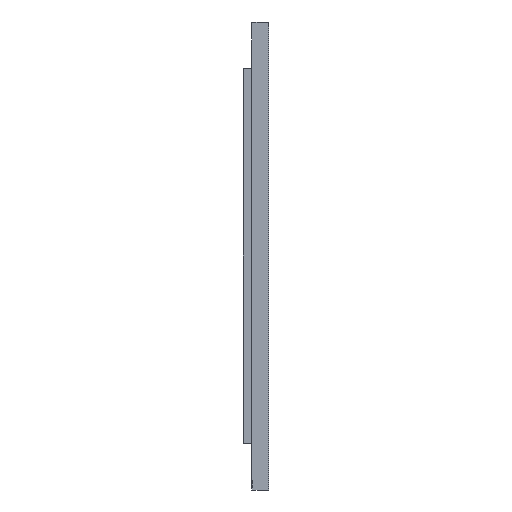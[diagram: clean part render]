
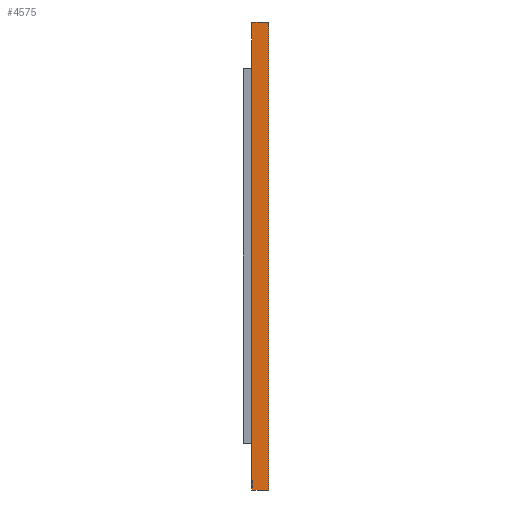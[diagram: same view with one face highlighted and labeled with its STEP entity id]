
A CAD part, left-side view. The second image highlights one B-rep face of the part: STEP entity #4575.
In plain terms, the highlighted planar face has unit normal (-1, 0, 0).
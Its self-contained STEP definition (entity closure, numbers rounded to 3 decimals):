
#344 = CARTESIAN_POINT ( 'NONE',  ( 159.833, 252.697, 49.139 ) ) ;
#574 = EDGE_CURVE ( 'NONE', #2173, #3932, #5075, .T. ) ;
#795 = EDGE_CURVE ( 'NONE', #805, #3932, #4635, .T. ) ;
#805 = VERTEX_POINT ( 'NONE', #3233 ) ;
#899 = LINE ( 'NONE', #4061, #2712 ) ;
#923 = PLANE ( 'NONE',  #2534 ) ;
#1919 = CARTESIAN_POINT ( 'NONE',  ( 159.833, 252.697, 299.139 ) ) ;
#1944 = EDGE_CURVE ( 'NONE', #3258, #2173, #2704, .T. ) ;
#1992 = VECTOR ( 'NONE', #5163, 1000. ) ;
#2173 = VERTEX_POINT ( 'NONE', #344 ) ;
#2196 = ORIENTED_EDGE ( 'NONE', *, *, #574, .T. ) ;
#2534 = AXIS2_PLACEMENT_3D ( 'NONE', #2898, #5560, #3435 ) ;
#2704 = LINE ( 'NONE', #3565, #3574 ) ;
#2712 = VECTOR ( 'NONE', #2721, 1000. ) ;
#2721 = DIRECTION ( 'NONE',  ( 0., 0., 1. ) ) ;
#2898 = CARTESIAN_POINT ( 'NONE',  ( 159.833, 261.697, 299.139 ) ) ;
#3049 = CARTESIAN_POINT ( 'NONE',  ( 159.833, 252.697, 299.139 ) ) ;
#3112 = DIRECTION ( 'NONE',  ( 0., -1., 0. ) ) ;
#3233 = CARTESIAN_POINT ( 'NONE',  ( 159.833, 261.697, 299.139 ) ) ;
#3253 = ORIENTED_EDGE ( 'NONE', *, *, #5335, .F. ) ;
#3258 = VERTEX_POINT ( 'NONE', #3843 ) ;
#3356 = DIRECTION ( 'NONE',  ( 0., -1., 0. ) ) ;
#3435 = DIRECTION ( 'NONE',  ( 0., 0., -1. ) ) ;
#3565 = CARTESIAN_POINT ( 'NONE',  ( 159.833, 261.697, 49.139 ) ) ;
#3574 = VECTOR ( 'NONE', #3112, 1000. ) ;
#3843 = CARTESIAN_POINT ( 'NONE',  ( 159.833, 261.697, 49.139 ) ) ;
#3932 = VERTEX_POINT ( 'NONE', #3049 ) ;
#4022 = ORIENTED_EDGE ( 'NONE', *, *, #795, .F. ) ;
#4061 = CARTESIAN_POINT ( 'NONE',  ( 159.833, 261.697, 299.139 ) ) ;
#4080 = FACE_OUTER_BOUND ( 'NONE', #4172, .T. ) ;
#4172 = EDGE_LOOP ( 'NONE', ( #2196, #4022, #3253, #5019 ) ) ;
#4575 = ADVANCED_FACE ( 'NONE', ( #4080 ), #923, .F. ) ;
#4605 = CARTESIAN_POINT ( 'NONE',  ( 159.833, 261.697, 299.139 ) ) ;
#4635 = LINE ( 'NONE', #4605, #5417 ) ;
#5019 = ORIENTED_EDGE ( 'NONE', *, *, #1944, .T. ) ;
#5075 = LINE ( 'NONE', #1919, #1992 ) ;
#5163 = DIRECTION ( 'NONE',  ( 0., 0., 1. ) ) ;
#5335 = EDGE_CURVE ( 'NONE', #3258, #805, #899, .T. ) ;
#5417 = VECTOR ( 'NONE', #3356, 1000. ) ;
#5560 = DIRECTION ( 'NONE',  ( 1., 0., 0. ) ) ;
